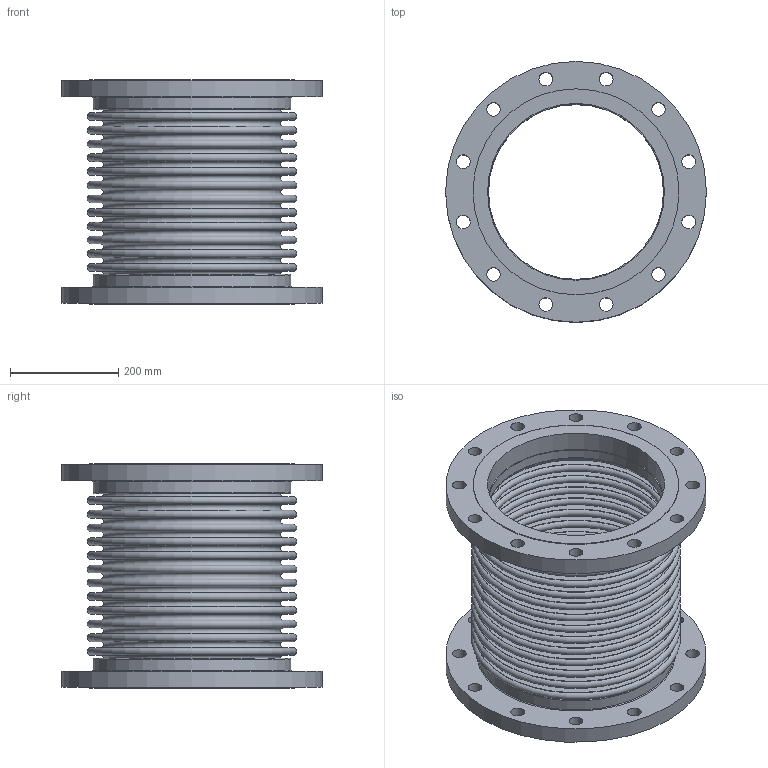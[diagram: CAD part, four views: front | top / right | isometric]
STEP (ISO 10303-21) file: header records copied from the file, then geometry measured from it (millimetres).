
FILE_DESCRIPTION(/* description */ ('EXPANSION JOINT,SINGLE, FLANGED ENDS,12 INCH NOMINAL','CAx-IF Rec.Pracs.---Representation and Presentation of Product Manufacturing Information (PMI)---4.0---2014-10-13'),/* implementation_level */ '2;1');
FILE_NAME(/* name */ 'US-12-12-150L-FLANGED ENDS.stp',/* time_stamp */ '2026-07-31T17:27:38-05:00',/* author */ ('Guadalupe'),/* organization */ (''),/* preprocessor_version */ 'ST-DEVELOPER v20.1',/* originating_system */ 'Autodesk Inventor 2026',/* authorisation */ '');
FILE_SCHEMA (('AP242_MANAGED_MODEL_BASED_3D_ENGINEERING_MIM_LF { 1 0 10303 442 2 1 4 }'));
Length unit declared in the file: inch
Products named in the file (3): 12-150L; 12-150L-02; 12-150L-01
Assembly tree (3 placements, depth 2):
  12-150L
    12-150L-02  x2
    12-150L-01
Bounding box: 482.6 x 482.6 x 415.54 mm (x, y, z)
Volume: 8269565.9 mm3; surface area: 2786115.1 mm2
Topology: 5 solids, 5 shells, 152 faces, 270 edges, 180 vertices
Faces by surface type: plane 62, torus 54, cylinder 36
Full cylindrical faces by diameter (mm): 25.4 x24, 323.85 x2, 326.898 x2, 327.152 x2, 365.252 x2, 381 x2, 482.6 x2
Entity records: 3450 total; most frequent: DIRECTION 710, CARTESIAN_POINT 513, ORIENTED_EDGE 432, AXIS2_PLACEMENT_3D 345, EDGE_CURVE 216, EDGE_LOOP 212, CIRCLE 196, VERTEX_POINT 144
